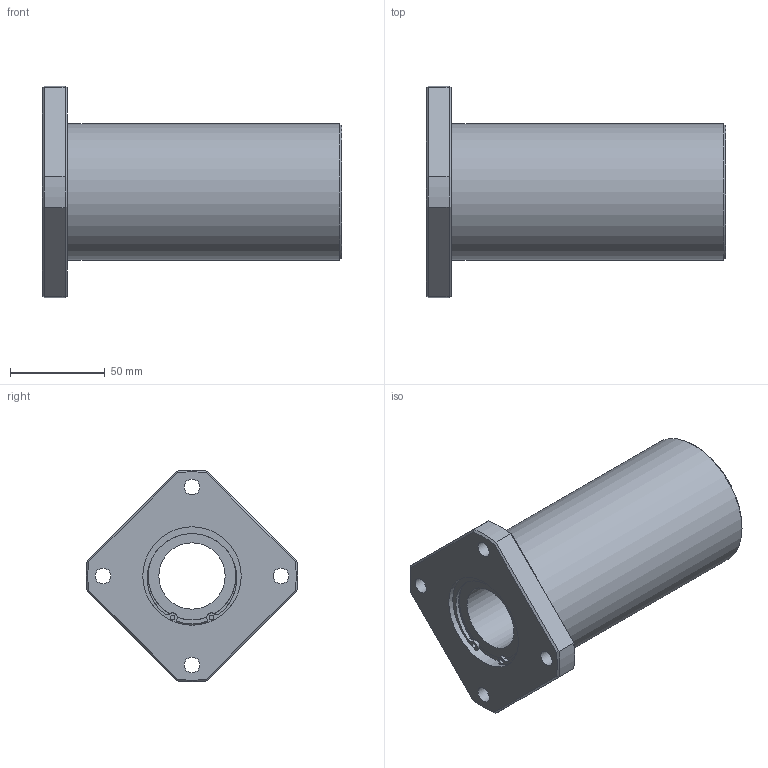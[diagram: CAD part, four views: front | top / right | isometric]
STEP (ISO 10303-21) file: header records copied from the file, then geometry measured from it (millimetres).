
FILE_DESCRIPTION((''),'2;1');
FILE_NAME('C:\Documents and Settings\土屋\My Documents\土屋移動用フォルダ\製品 (図面)\カタログ用3D\変換ファイル\OZAK_3D-CAD(STEP形式)\Part1.-Linear Bearings_ﾘﾆｱﾍﾞｱﾘﾝｸﾞ\09_Maintenance Free_ﾒｲﾝﾃﾅﾝｽﾌﾘｰ\L2017-09-21T17:52:18','2017-09-21T17:52:18',('y'),(''),'Autodesk Inventor 11','Autodesk Inventor 11','');
FILE_SCHEMA(('AUTOMOTIVE_DESIGN { 1 0 10303 214 1 1 1 1 }'));
Length unit declared in the file: millimetre
Products named in the file (1): LFWK35MF
Bounding box: 158 x 111.86 x 111.86 mm (x, y, z)
Volume: 525700.7 mm3; surface area: 72872.9 mm2
Topology: 1 solids, 3 shells, 89 faces, 240 edges, 144 vertices
Faces by surface type: plane 38, cylinder 25, bspline 15, cone 9, torus 2
Full cylindrical faces by diameter (mm): 2.5 x2, 8.376 x4, 35 x1, 46.4 x2, 49 x2, 52 x4, 72 x1
Entity records: 2772 total; most frequent: CARTESIAN_POINT 650, DIRECTION 466, ORIENTED_EDGE 400, AXIS2_PLACEMENT_3D 207, EDGE_CURVE 200, EDGE_LOOP 134, CIRCLE 132, VERTEX_POINT 128
